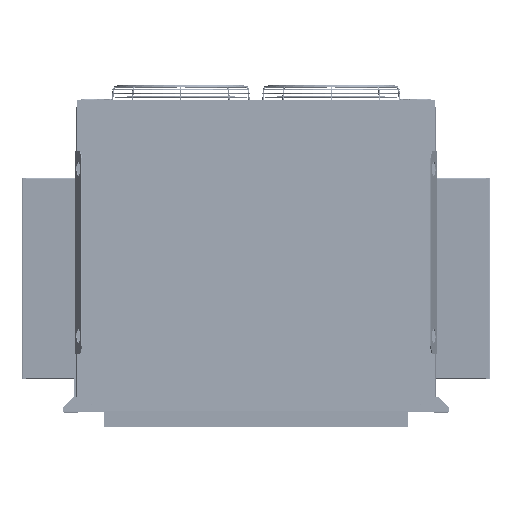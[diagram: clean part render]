
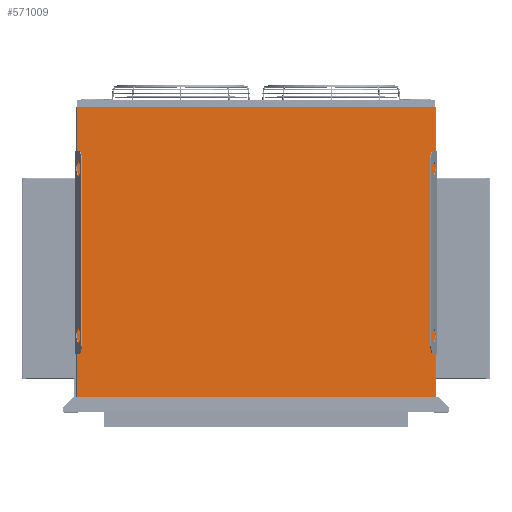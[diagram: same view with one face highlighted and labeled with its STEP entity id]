
A CAD part, top view. The second image highlights one B-rep face of the part: STEP entity #571009.
In plain terms, the highlighted planar face has unit normal (0, 0.044, 0.999) as drawn and (0, 0, 1) by its records, which use the part's own axes.
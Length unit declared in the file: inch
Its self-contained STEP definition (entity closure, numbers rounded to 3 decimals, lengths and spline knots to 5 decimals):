
#5438 = EDGE_CURVE ( 'NONE', #489423, #65731, #98081, .T. ) ;
#11400 = CARTESIAN_POINT ( 'NONE',  ( 50.345, 0.125, 0.06 ) ) ;
#11434 = VECTOR ( 'NONE', #425165, 39.37008 ) ;
#13281 = VERTEX_POINT ( 'NONE', #514312 ) ;
#14993 = CARTESIAN_POINT ( 'NONE',  ( 0.188, 0.125, 0.06 ) ) ;
#18200 = EDGE_CURVE ( 'NONE', #372517, #84858, #581092, .T. ) ;
#18891 = ORIENTED_EDGE ( 'NONE', *, *, #268004, .F. ) ;
#34056 = DIRECTION ( 'NONE',  ( 0., 0., 1. ) ) ;
#38143 = VECTOR ( 'NONE', #428570, 39.37008 ) ;
#40192 = VECTOR ( 'NONE', #341175, 39.37008 ) ;
#41460 = DIRECTION ( 'NONE',  ( 1., 0., 0. ) ) ;
#42445 = AXIS2_PLACEMENT_3D ( 'NONE', #532955, #53126, #625151 ) ;
#47376 = CARTESIAN_POINT ( 'NONE',  ( 0.188, 0.01567, 0.06 ) ) ;
#50520 = LINE ( 'NONE', #520932, #38143 ) ;
#53126 = DIRECTION ( 'NONE',  ( 0., 0., 1. ) ) ;
#65731 = VERTEX_POINT ( 'NONE', #346794 ) ;
#68314 = VERTEX_POINT ( 'NONE', #14993 ) ;
#74753 = DIRECTION ( 'NONE',  ( 1., 0., 0. ) ) ;
#75583 = CIRCLE ( 'NONE', #288472, 0.0745 ) ;
#81655 = FACE_BOUND ( 'NONE', #196492, .T. ) ;
#84799 = FACE_BOUND ( 'NONE', #156369, .T. ) ;
#84858 = VERTEX_POINT ( 'NONE', #99065 ) ;
#85860 = CARTESIAN_POINT ( 'NONE',  ( 0., 0.125, 0.06 ) ) ;
#88990 = LINE ( 'NONE', #85860, #292963 ) ;
#90823 = ORIENTED_EDGE ( 'NONE', *, *, #487354, .T. ) ;
#98081 = CIRCLE ( 'NONE', #463262, 0.0745 ) ;
#98293 = VERTEX_POINT ( 'NONE', #284499 ) ;
#99065 = CARTESIAN_POINT ( 'NONE',  ( 0.015, 42.76564, 0.06 ) ) ;
#102208 = VECTOR ( 'NONE', #145694, 39.37008 ) ;
#119283 = CARTESIAN_POINT ( 'NONE',  ( 48.3, 0.99488, 0.06 ) ) ;
#121397 = ORIENTED_EDGE ( 'NONE', *, *, #480417, .F. ) ;
#123343 = AXIS2_PLACEMENT_3D ( 'NONE', #509665, #226600, #261751 ) ;
#125468 = EDGE_CURVE ( 'NONE', #246623, #483889, #170059, .T. ) ;
#132951 = CARTESIAN_POINT ( 'NONE',  ( 0.015, 0.125, 0.06 ) ) ;
#138095 = VECTOR ( 'NONE', #434671, 39.37008 ) ;
#138656 = DIRECTION ( 'NONE',  ( 1., 0., 0. ) ) ;
#140248 = ORIENTED_EDGE ( 'NONE', *, *, #232038, .T. ) ;
#145694 = DIRECTION ( 'NONE',  ( -1., 0., 0. ) ) ;
#148874 = CARTESIAN_POINT ( 'NONE',  ( 50.345, 42.76564, 0.06 ) ) ;
#156369 = EDGE_LOOP ( 'NONE', ( #415232, #582432 ) ) ;
#163611 = CIRCLE ( 'NONE', #123343, 0.0745 ) ;
#165217 = EDGE_CURVE ( 'NONE', #68314, #299843, #574592, .T. ) ;
#167432 = CIRCLE ( 'NONE', #319648, 0.0745 ) ;
#170059 = CIRCLE ( 'NONE', #474380, 0.0745 ) ;
#180484 = EDGE_CURVE ( 'NONE', #65731, #489423, #163611, .T. ) ;
#184855 = AXIS2_PLACEMENT_3D ( 'NONE', #367294, #411801, #510454 ) ;
#184886 = CARTESIAN_POINT ( 'NONE',  ( 1.9855, 0.99488, 0.06 ) ) ;
#195745 = CARTESIAN_POINT ( 'NONE',  ( 2.06, 0.99488, 0.06 ) ) ;
#196183 = CARTESIAN_POINT ( 'NONE',  ( 0.188, 0., 0.06 ) ) ;
#196492 = EDGE_LOOP ( 'NONE', ( #18891, #121397 ) ) ;
#203998 = ORIENTED_EDGE ( 'NONE', *, *, #331189, .F. ) ;
#218357 = CARTESIAN_POINT ( 'NONE',  ( 50.345, 42.76564, 0.06 ) ) ;
#218764 = CARTESIAN_POINT ( 'NONE',  ( 50.172, 0.01567, 0.06 ) ) ;
#222516 = EDGE_LOOP ( 'NONE', ( #493613, #300858 ) ) ;
#223003 = VERTEX_POINT ( 'NONE', #526651 ) ;
#224533 = FACE_BOUND ( 'NONE', #331743, .T. ) ;
#226472 = EDGE_CURVE ( 'NONE', #223003, #372517, #342138, .T. ) ;
#226600 = DIRECTION ( 'NONE',  ( 0., 0., 1. ) ) ;
#232038 = EDGE_CURVE ( 'NONE', #84858, #323842, #622181, .T. ) ;
#237552 = CARTESIAN_POINT ( 'NONE',  ( 2.1345, 0.99488, 0.06 ) ) ;
#243449 = DIRECTION ( 'NONE',  ( 1., 0., 0. ) ) ;
#246623 = VERTEX_POINT ( 'NONE', #237552 ) ;
#258418 = CARTESIAN_POINT ( 'NONE',  ( 0., 0.125, 0.06 ) ) ;
#260261 = EDGE_CURVE ( 'NONE', #483889, #246623, #316119, .T. ) ;
#261751 = DIRECTION ( 'NONE',  ( 1., 0., 0. ) ) ;
#268004 = EDGE_CURVE ( 'NONE', #579134, #98293, #167432, .T. ) ;
#271840 = ORIENTED_EDGE ( 'NONE', *, *, #165217, .T. ) ;
#275269 = PLANE ( 'NONE',  #405840 ) ;
#281493 = CARTESIAN_POINT ( 'NONE',  ( 48.3, 0.99488, 0.06 ) ) ;
#281788 = DIRECTION ( 'NONE',  ( 1., 0., 0. ) ) ;
#284499 = CARTESIAN_POINT ( 'NONE',  ( 17.39883, 0.99488, 0.06 ) ) ;
#284925 = DIRECTION ( 'NONE',  ( 0., 0., 1. ) ) ;
#288472 = AXIS2_PLACEMENT_3D ( 'NONE', #281493, #34056, #138656 ) ;
#292963 = VECTOR ( 'NONE', #41460, 39.37008 ) ;
#299843 = VERTEX_POINT ( 'NONE', #47376 ) ;
#300858 = ORIENTED_EDGE ( 'NONE', *, *, #5438, .F. ) ;
#312890 = DIRECTION ( 'NONE',  ( 0., 0., 1. ) ) ;
#316119 = CIRCLE ( 'NONE', #42445, 0.0745 ) ;
#319648 = AXIS2_PLACEMENT_3D ( 'NONE', #529813, #284925, #281788 ) ;
#323842 = VERTEX_POINT ( 'NONE', #132951 ) ;
#331189 = EDGE_CURVE ( 'NONE', #13281, #528917, #75583, .T. ) ;
#331743 = EDGE_LOOP ( 'NONE', ( #203998, #473868 ) ) ;
#341175 = DIRECTION ( 'NONE',  ( 1., 0., 0. ) ) ;
#342138 = LINE ( 'NONE', #11400, #431014 ) ;
#344892 = DIRECTION ( 'NONE',  ( 0., 0., 1. ) ) ;
#346794 = CARTESIAN_POINT ( 'NONE',  ( 32.96117, 0.99488, 0.06 ) ) ;
#359990 = CARTESIAN_POINT ( 'NONE',  ( 32.81217, 0.99488, 0.06 ) ) ;
#367294 = CARTESIAN_POINT ( 'NONE',  ( 17.47333, 0.99488, 0.06 ) ) ;
#372517 = VERTEX_POINT ( 'NONE', #218357 ) ;
#380629 = CARTESIAN_POINT ( 'NONE',  ( 0.015, 42.78, 0.06 ) ) ;
#381420 = ORIENTED_EDGE ( 'NONE', *, *, #226472, .T. ) ;
#386877 = AXIS2_PLACEMENT_3D ( 'NONE', #119283, #312890, #74753 ) ;
#390029 = DIRECTION ( 'NONE',  ( 0., 0., 1. ) ) ;
#390132 = ORIENTED_EDGE ( 'NONE', *, *, #18200, .T. ) ;
#393128 = DIRECTION ( 'NONE',  ( 0., -1., 0. ) ) ;
#405840 = AXIS2_PLACEMENT_3D ( 'NONE', #469237, #618530, #520114 ) ;
#411801 = DIRECTION ( 'NONE',  ( 0., 0., 1. ) ) ;
#415232 = ORIENTED_EDGE ( 'NONE', *, *, #125468, .F. ) ;
#418407 = FACE_OUTER_BOUND ( 'NONE', #497286, .T. ) ;
#419674 = EDGE_CURVE ( 'NONE', #323842, #68314, #449219, .T. ) ;
#421885 = EDGE_CURVE ( 'NONE', #299843, #608715, #50520, .T. ) ;
#425165 = DIRECTION ( 'NONE',  ( 0., -1., 0. ) ) ;
#427266 = CIRCLE ( 'NONE', #386877, 0.0745 ) ;
#428570 = DIRECTION ( 'NONE',  ( 1., 0., 0. ) ) ;
#431014 = VECTOR ( 'NONE', #437331, 39.37008 ) ;
#434671 = DIRECTION ( 'NONE',  ( 0., 1., 0. ) ) ;
#435446 = CARTESIAN_POINT ( 'NONE',  ( 50.172, 0.125, 0.06 ) ) ;
#437331 = DIRECTION ( 'NONE',  ( 0., 1., 0. ) ) ;
#437808 = LINE ( 'NONE', #533284, #138095 ) ;
#441082 = CARTESIAN_POINT ( 'NONE',  ( 17.54783, 0.99488, 0.06 ) ) ;
#449219 = LINE ( 'NONE', #258418, #40192 ) ;
#463262 = AXIS2_PLACEMENT_3D ( 'NONE', #485433, #390029, #473700 ) ;
#469237 = CARTESIAN_POINT ( 'NONE',  ( 0., 0., 0.06 ) ) ;
#473700 = DIRECTION ( 'NONE',  ( 1., 0., 0. ) ) ;
#473868 = ORIENTED_EDGE ( 'NONE', *, *, #591139, .F. ) ;
#474380 = AXIS2_PLACEMENT_3D ( 'NONE', #195745, #344892, #243449 ) ;
#480417 = EDGE_CURVE ( 'NONE', #98293, #579134, #519684, .T. ) ;
#483889 = VERTEX_POINT ( 'NONE', #184886 ) ;
#485433 = CARTESIAN_POINT ( 'NONE',  ( 32.88667, 0.99488, 0.06 ) ) ;
#487354 = EDGE_CURVE ( 'NONE', #524191, #223003, #88990, .T. ) ;
#489423 = VERTEX_POINT ( 'NONE', #359990 ) ;
#493613 = ORIENTED_EDGE ( 'NONE', *, *, #180484, .F. ) ;
#497286 = EDGE_LOOP ( 'NONE', ( #140248, #626312, #271840, #507157, #506321, #90823, #381420, #390132 ) ) ;
#506321 = ORIENTED_EDGE ( 'NONE', *, *, #506350, .T. ) ;
#506350 = EDGE_CURVE ( 'NONE', #608715, #524191, #437808, .T. ) ;
#507157 = ORIENTED_EDGE ( 'NONE', *, *, #421885, .T. ) ;
#509665 = CARTESIAN_POINT ( 'NONE',  ( 32.88667, 0.99488, 0.06 ) ) ;
#510454 = DIRECTION ( 'NONE',  ( 1., 0., 0. ) ) ;
#514312 = CARTESIAN_POINT ( 'NONE',  ( 48.3745, 0.99488, 0.06 ) ) ;
#519684 = CIRCLE ( 'NONE', #184855, 0.0745 ) ;
#520114 = DIRECTION ( 'NONE',  ( 1., 0., 0. ) ) ;
#520932 = CARTESIAN_POINT ( 'NONE',  ( 0.188, 0.01567, 0.06 ) ) ;
#524191 = VERTEX_POINT ( 'NONE', #435446 ) ;
#526651 = CARTESIAN_POINT ( 'NONE',  ( 50.345, 0.125, 0.06 ) ) ;
#528892 = VECTOR ( 'NONE', #393128, 39.37008 ) ;
#528917 = VERTEX_POINT ( 'NONE', #541336 ) ;
#529813 = CARTESIAN_POINT ( 'NONE',  ( 17.47333, 0.99488, 0.06 ) ) ;
#532955 = CARTESIAN_POINT ( 'NONE',  ( 2.06, 0.99488, 0.06 ) ) ;
#533284 = CARTESIAN_POINT ( 'NONE',  ( 50.172, 0., 0.06 ) ) ;
#541336 = CARTESIAN_POINT ( 'NONE',  ( 48.2255, 0.99488, 0.06 ) ) ;
#570890 = FACE_BOUND ( 'NONE', #222516, .T. ) ;
#571009 = ADVANCED_FACE ( 'NONE', ( #84799, #81655, #570890, #224533, #418407 ), #275269, .T. ) ;
#574592 = LINE ( 'NONE', #196183, #528892 ) ;
#579134 = VERTEX_POINT ( 'NONE', #441082 ) ;
#581092 = LINE ( 'NONE', #148874, #102208 ) ;
#582432 = ORIENTED_EDGE ( 'NONE', *, *, #260261, .F. ) ;
#591139 = EDGE_CURVE ( 'NONE', #528917, #13281, #427266, .T. ) ;
#608715 = VERTEX_POINT ( 'NONE', #218764 ) ;
#618530 = DIRECTION ( 'NONE',  ( 0., 0., 1. ) ) ;
#622181 = LINE ( 'NONE', #380629, #11434 ) ;
#625151 = DIRECTION ( 'NONE',  ( 1., 0., 0. ) ) ;
#626312 = ORIENTED_EDGE ( 'NONE', *, *, #419674, .T. ) ;
